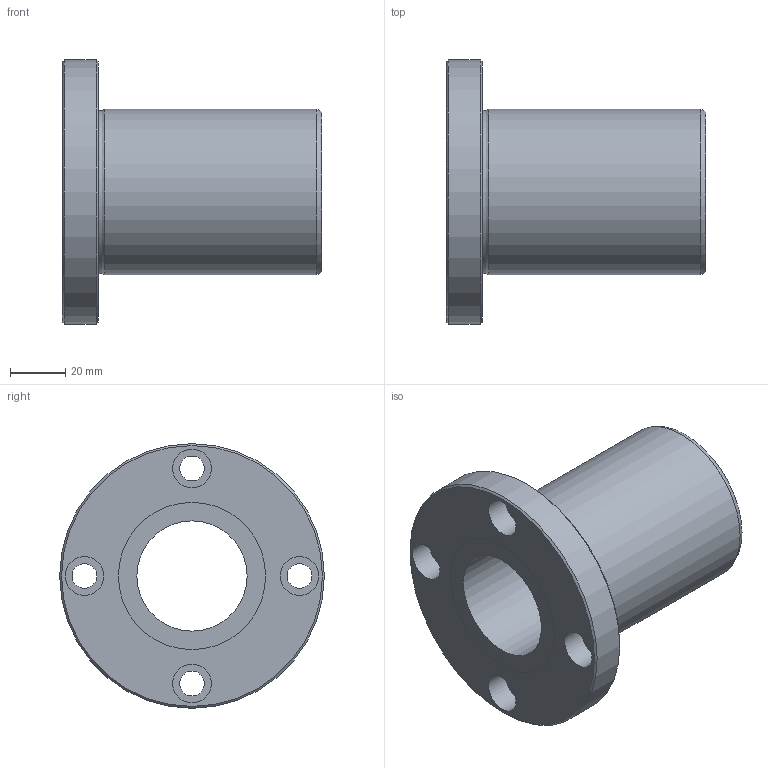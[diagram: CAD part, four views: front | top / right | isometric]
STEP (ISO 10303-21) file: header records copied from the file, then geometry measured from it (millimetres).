
FILE_DESCRIPTION((''),'2;1');
FILE_NAME('C:\Documents and Settings\土屋\My Documents\土屋移動用フォルダ\製品 (図面)\カタログ用3D\変換ファイル\OZAK_3D-CAD(STEP形式)\Part1.-Linear Bearings_ﾘﾆｱﾍﾞｱﾘﾝｸﾞ\09_Maintenance Free_ﾒｲﾝﾃﾅﾝｽﾌﾘｰ\L2017-09-21T11:55:32','2017-09-21T11:55:32',('y'),(''),'Autodesk Inventor 11','Autodesk Inventor 11','');
FILE_SCHEMA(('AUTOMOTIVE_DESIGN { 1 0 10303 214 1 1 1 1 }'));
Length unit declared in the file: millimetre
Products named in the file (1): LF-MF
Bounding box: 94 x 96 x 96 mm (x, y, z)
Volume: 197876.1 mm3; surface area: 44169 mm2
Topology: 1 solids, 1 shells, 26 faces, 47 edges, 30 vertices
Faces by surface type: cylinder 13, plane 9, cone 2, torus 1, bspline 1
Full cylindrical faces by diameter (mm): 9 x4, 14 x4, 40 x1, 53.4 x2, 60 x1, 96 x1
Entity records: 665 total; most frequent: CARTESIAN_POINT 149, DIRECTION 112, ORIENTED_EDGE 60, EDGE_LOOP 60, AXIS2_PLACEMENT_3D 56, FACE_BOUND 34, VERTEX_POINT 30, CIRCLE 30
